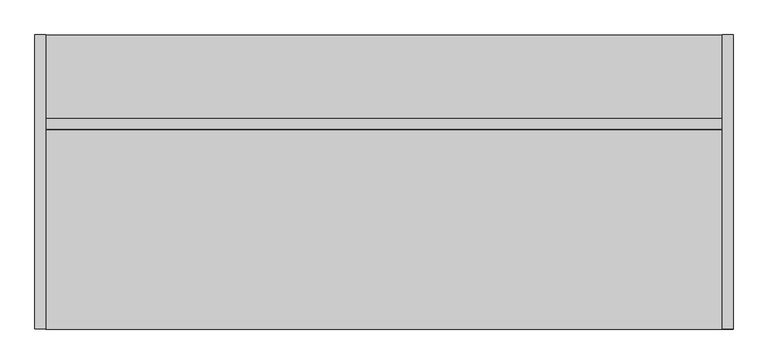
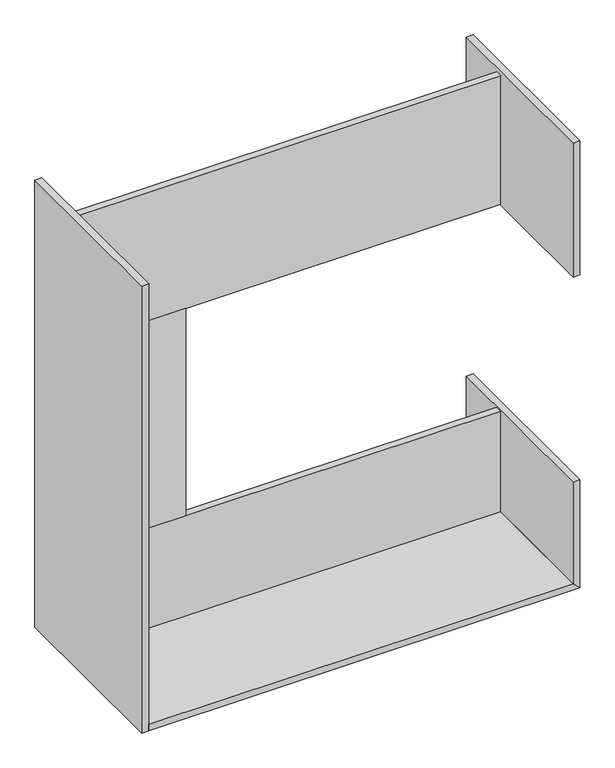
"""IFC4 building model written with IfcOpenShell, lengths in millimetres: proxy geometry, FOUNDATION^ADMIN 2_U-SHAPE-PARTS SOLID."""

from ifc_helpers import new_model, si_unit, frame, origin, place, context, project, spatial, polyline, outline, extrude, source, transform, mapped, element, save


def generic_models_0e09be4f(model_context):
    return source(origin(), model_context, "Body", "SweptSolid", [
        extrude(outline(polyline([(-1993.9, 0.0), (-2590.8, 0.0), (-2628.9, 38.1), (-1993.9, 38.1), (-1993.9, 0.0)])), frame((0.0, 0.0, 0.0), z_axis=(0.0, 1.0, 0.0), x_axis=(0.0, 0.0, 1.0)), (0.0, 0.0, 1.0), 1028.7),
        extrude(outline(polyline([(-1752.6, 736.6), (-1752.6, 698.5), (-2362.2, 698.5), (-2362.2, 736.6), (-1752.6, 736.6)])), frame((0.0, 0.0, -2000.25), z_axis=(0.0, 0.0, 1.0), x_axis=(1.0, 0.0, 0.0)), (0.0, 0.0, 1.0), 1219.2),
        extrude(outline(polyline([(-2628.9, 38.1), (-2590.8, 0.0), (-2590.8, -2362.2), (-2628.9, -2362.2), (-2628.9, 38.1)])), frame((0.0, 0.0, 0.0), z_axis=(0.0, 1.0, 0.0), x_axis=(0.0, 0.0, 1.0)), (0.0, 0.0, 1.0), 1028.7),
        extrude(outline(polyline([(0.0, 736.6), (0.0, 698.5), (-2362.2, 698.5), (-2362.2, 736.6), (0.0, 736.6)])), frame((0.0, 0.0, -781.05), z_axis=(0.0, 0.0, 1.0), x_axis=(1.0, 0.0, 0.0)), (0.0, 0.0, 1.0), 755.65),
        extrude(outline(polyline([(-2362.2, 736.6), (0.0, 736.6), (0.0, 698.5), (-2362.2, 698.5), (-2362.2, 736.6)])), frame((0.0, 0.0, -2590.8), z_axis=(0.0, 0.0, 1.0), x_axis=(1.0, 0.0, 0.0)), (0.0, 0.0, 1.0), 590.55),
        extrude(outline(polyline([(-2362.2, 1028.7), (-2362.2, 0.0), (-2400.3, 0.0), (-2400.3, 1028.7), (-2362.2, 1028.7)])), frame((0.0, 0.0, -2628.9), z_axis=(0.0, 0.0, 1.0), x_axis=(1.0, 0.0, 0.0)), (0.0, 0.0, 1.0), 2628.9),
        extrude(outline(polyline([(0.0, 0.0), (0.0, 1028.7), (38.1, 1028.7), (38.1, 0.0), (0.0, 0.0)])), frame((0.0, 0.0, -787.4), z_axis=(0.0, 0.0, 1.0), x_axis=(1.0, 0.0, 0.0)), (0.0, 0.0, 1.0), 787.4),
    ])


if __name__ == "__main__":
    model = new_model("IFC4")
    model_context = context("Model", 3, world=origin())
    ifc_project = project(units=[si_unit("LENGTHUNIT", "METRE", prefix="MILLI")], contexts=[model_context])
    site = spatial("IfcSite", under=ifc_project)
    building = spatial("IfcBuilding", under=site)
    placement = place(None, origin())
    generic_models_shape = generic_models_0e09be4f(model_context)
    element("IfcBuildingElementProxy", 1, Name="FOUNDATION^ADMIN 2_U-SHAPE-PARTS SOLID", ObjectType="FOUNDATION^ADMIN 2_U-SHAPE-PARTS SOLID", at=placement, inside=building, context=model_context, shape_type="MappedRepresentation", body=[
        mapped(generic_models_shape, transform((0.0, 0.0, 0.0), x_axis=(1.0, 0.0, 0.0), y_axis=(0.0, 1.0, 0.0), z_axis=(0.0, 0.0, 1.0))),
    ])
    save(model, "model.ifc")
